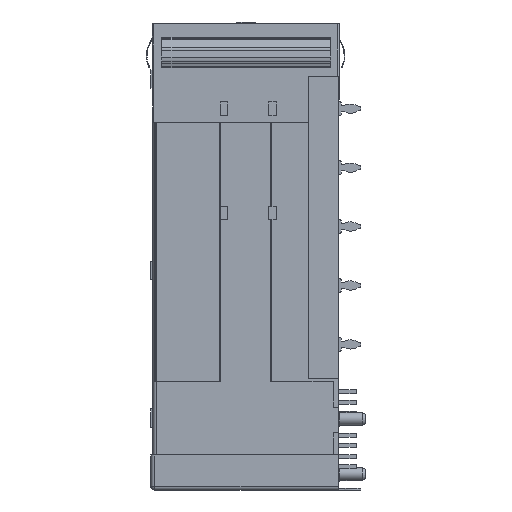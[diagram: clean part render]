
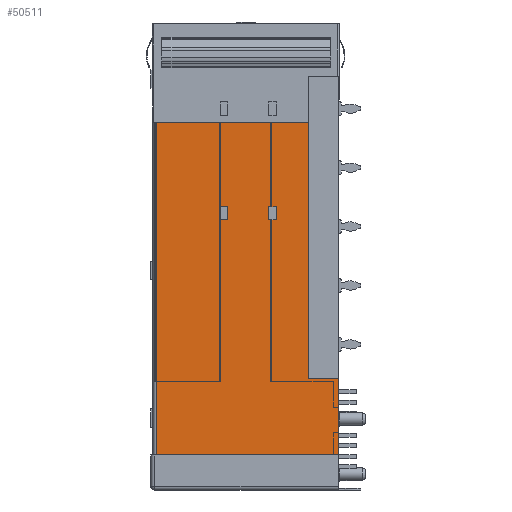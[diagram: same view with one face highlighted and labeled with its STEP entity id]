
A CAD part, left-side view. The second image highlights one B-rep face of the part: STEP entity #50511.
In plain terms, the highlighted planar face has unit normal (-1, 0, 0).
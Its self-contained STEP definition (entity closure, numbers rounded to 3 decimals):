
#53 = DIRECTION ( 'NONE',  ( 0., 0., -1. ) ) ;
#724 = CARTESIAN_POINT ( 'NONE',  ( -42.875, 8.45, -26.6 ) ) ;
#1638 = EDGE_LOOP ( 'NONE', ( #9303, #9169, #57726, #85161, #72223, #13407 ) ) ;
#1797 = CARTESIAN_POINT ( 'NONE',  ( -42.875, 9.45, -26.6 ) ) ;
#2670 = CARTESIAN_POINT ( 'NONE',  ( -42.875, 0., -63.25 ) ) ;
#2770 = AXIS2_PLACEMENT_3D ( 'NONE', #60844, #84009, #83327 ) ;
#2809 = VERTEX_POINT ( 'NONE', #16423 ) ;
#2815 = CARTESIAN_POINT ( 'NONE',  ( -42.875, 4.1, -13.4 ) ) ;
#3092 = CARTESIAN_POINT ( 'NONE',  ( -42.875, 0., -48.1 ) ) ;
#3178 = LINE ( 'NONE', #81009, #25787 ) ;
#3416 = VECTOR ( 'NONE', #10620, 1000. ) ;
#3581 = ORIENTED_EDGE ( 'NONE', *, *, #31545, .T. ) ;
#4260 = LINE ( 'NONE', #3092, #62073 ) ;
#5227 = CARTESIAN_POINT ( 'NONE',  ( -42.875, 9.45, -24.8 ) ) ;
#6854 = VECTOR ( 'NONE', #26841, 1000. ) ;
#9169 = ORIENTED_EDGE ( 'NONE', *, *, #50892, .T. ) ;
#9193 = EDGE_CURVE ( 'NONE', #64958, #66010, #88808, .T. ) ;
#9303 = ORIENTED_EDGE ( 'NONE', *, *, #10427, .F. ) ;
#9581 = EDGE_CURVE ( 'NONE', #89379, #97087, #67340, .T. ) ;
#9822 = VERTEX_POINT ( 'NONE', #67028 ) ;
#10427 = EDGE_CURVE ( 'NONE', #22195, #43388, #13076, .T. ) ;
#10620 = DIRECTION ( 'NONE',  ( 0., -1., 0. ) ) ;
#13076 = LINE ( 'NONE', #18110, #63371 ) ;
#13407 = ORIENTED_EDGE ( 'NONE', *, *, #46074, .T. ) ;
#16423 = CARTESIAN_POINT ( 'NONE',  ( -42.875, 24.7, -58.5 ) ) ;
#18110 = CARTESIAN_POINT ( 'NONE',  ( -42.875, 25.2, -13.4 ) ) ;
#18687 = ORIENTED_EDGE ( 'NONE', *, *, #100292, .T. ) ;
#22195 = VERTEX_POINT ( 'NONE', #68334 ) ;
#23080 = LINE ( 'NONE', #2670, #64592 ) ;
#23247 = DIRECTION ( 'NONE',  ( 0., 0., -1. ) ) ;
#25787 = VECTOR ( 'NONE', #97181, 1000. ) ;
#26841 = DIRECTION ( 'NONE',  ( 0., 1., 0. ) ) ;
#27658 = CARTESIAN_POINT ( 'NONE',  ( -42.875, 9.45, -24.8 ) ) ;
#28509 = CARTESIAN_POINT ( 'NONE',  ( -42.875, 9.45, -24.8 ) ) ;
#28863 = EDGE_CURVE ( 'NONE', #73923, #40266, #23080, .T. ) ;
#29274 = FACE_BOUND ( 'NONE', #81308, .T. ) ;
#31545 = EDGE_CURVE ( 'NONE', #88949, #89379, #66428, .T. ) ;
#32053 = CARTESIAN_POINT ( 'NONE',  ( -42.875, 0., -48.1 ) ) ;
#34363 = CARTESIAN_POINT ( 'NONE',  ( -42.875, 24.7, -63.25 ) ) ;
#39289 = VECTOR ( 'NONE', #83489, 1000. ) ;
#39378 = VECTOR ( 'NONE', #59466, 1000. ) ;
#39919 = VERTEX_POINT ( 'NONE', #83421 ) ;
#40266 = VERTEX_POINT ( 'NONE', #32053 ) ;
#42137 = CARTESIAN_POINT ( 'NONE',  ( -42.875, 4.1, -48.1 ) ) ;
#42204 = CARTESIAN_POINT ( 'NONE',  ( -42.875, 4.1, -7.1 ) ) ;
#43388 = VERTEX_POINT ( 'NONE', #2815 ) ;
#44066 = CARTESIAN_POINT ( 'NONE',  ( -42.875, 16., -26.6 ) ) ;
#44851 = ORIENTED_EDGE ( 'NONE', *, *, #79571, .T. ) ;
#46074 = EDGE_CURVE ( 'NONE', #68333, #43388, #71651, .T. ) ;
#46760 = ORIENTED_EDGE ( 'NONE', *, *, #95624, .T. ) ;
#49727 = VECTOR ( 'NONE', #53, 1000. ) ;
#49876 = CARTESIAN_POINT ( 'NONE',  ( -42.875, 25.2, -58.5 ) ) ;
#50500 = EDGE_CURVE ( 'NONE', #88709, #88949, #83309, .T. ) ;
#50511 = ADVANCED_FACE ( 'NONE', ( #61959, #29274, #63253 ), #75927, .T. ) ;
#50892 = EDGE_CURVE ( 'NONE', #22195, #2809, #65660, .T. ) ;
#51310 = ORIENTED_EDGE ( 'NONE', *, *, #50500, .T. ) ;
#51477 = DIRECTION ( 'NONE',  ( 0., -1., 0. ) ) ;
#51589 = DIRECTION ( 'NONE',  ( 0., -1., 0. ) ) ;
#52385 = VECTOR ( 'NONE', #79165, 1000. ) ;
#53979 = EDGE_CURVE ( 'NONE', #40266, #68333, #4260, .T. ) ;
#57726 = ORIENTED_EDGE ( 'NONE', *, *, #65529, .T. ) ;
#59466 = DIRECTION ( 'NONE',  ( 0., 0., 1. ) ) ;
#60844 = CARTESIAN_POINT ( 'NONE',  ( -42.875, 0., -63.25 ) ) ;
#61959 = FACE_BOUND ( 'NONE', #76582, .T. ) ;
#62073 = VECTOR ( 'NONE', #67974, 1000. ) ;
#63253 = FACE_OUTER_BOUND ( 'NONE', #1638, .T. ) ;
#63371 = VECTOR ( 'NONE', #51477, 1000. ) ;
#63595 = CARTESIAN_POINT ( 'NONE',  ( -42.875, 0., -58.5 ) ) ;
#64592 = VECTOR ( 'NONE', #66182, 1000. ) ;
#64958 = VERTEX_POINT ( 'NONE', #79811 ) ;
#65529 = EDGE_CURVE ( 'NONE', #2809, #73923, #98337, .T. ) ;
#65660 = LINE ( 'NONE', #34363, #39289 ) ;
#65871 = CARTESIAN_POINT ( 'NONE',  ( -42.875, 8.45, -24.8 ) ) ;
#65880 = CARTESIAN_POINT ( 'NONE',  ( -42.875, 15., -24.8 ) ) ;
#66010 = VERTEX_POINT ( 'NONE', #65880 ) ;
#66182 = DIRECTION ( 'NONE',  ( 0., 0., 1. ) ) ;
#66428 = LINE ( 'NONE', #27658, #72642 ) ;
#66755 = DIRECTION ( 'NONE',  ( 0., 0., 1. ) ) ;
#67028 = CARTESIAN_POINT ( 'NONE',  ( -42.875, 16., -26.6 ) ) ;
#67340 = LINE ( 'NONE', #72995, #49727 ) ;
#67893 = ORIENTED_EDGE ( 'NONE', *, *, #9581, .T. ) ;
#67974 = DIRECTION ( 'NONE',  ( 0., 1., 0. ) ) ;
#68333 = VERTEX_POINT ( 'NONE', #42137 ) ;
#68334 = CARTESIAN_POINT ( 'NONE',  ( -42.875, 24.7, -13.4 ) ) ;
#71651 = LINE ( 'NONE', #42204, #75396 ) ;
#72018 = CARTESIAN_POINT ( 'NONE',  ( -42.875, 15., -24.8 ) ) ;
#72223 = ORIENTED_EDGE ( 'NONE', *, *, #53979, .T. ) ;
#72642 = VECTOR ( 'NONE', #51589, 1000. ) ;
#72995 = CARTESIAN_POINT ( 'NONE',  ( -42.875, 8.45, -24.8 ) ) ;
#73703 = LINE ( 'NONE', #95030, #52385 ) ;
#73923 = VERTEX_POINT ( 'NONE', #63595 ) ;
#75396 = VECTOR ( 'NONE', #66755, 1000. ) ;
#75922 = ORIENTED_EDGE ( 'NONE', *, *, #82849, .T. ) ;
#75927 = PLANE ( 'NONE',  #2770 ) ;
#76582 = EDGE_LOOP ( 'NONE', ( #3581, #67893, #18687, #51310 ) ) ;
#79165 = DIRECTION ( 'NONE',  ( 0., 1., 0. ) ) ;
#79571 = EDGE_CURVE ( 'NONE', #66010, #39919, #82156, .T. ) ;
#79811 = CARTESIAN_POINT ( 'NONE',  ( -42.875, 16., -24.8 ) ) ;
#81009 = CARTESIAN_POINT ( 'NONE',  ( -42.875, 16., -24.8 ) ) ;
#81308 = EDGE_LOOP ( 'NONE', ( #95166, #44851, #46760, #75922 ) ) ;
#82145 = DIRECTION ( 'NONE',  ( 0., -1., 0. ) ) ;
#82156 = LINE ( 'NONE', #72018, #84685 ) ;
#82849 = EDGE_CURVE ( 'NONE', #9822, #64958, #3178, .T. ) ;
#83309 = LINE ( 'NONE', #28509, #39378 ) ;
#83327 = DIRECTION ( 'NONE',  ( 0., 0., 1. ) ) ;
#83421 = CARTESIAN_POINT ( 'NONE',  ( -42.875, 15., -26.6 ) ) ;
#83489 = DIRECTION ( 'NONE',  ( 0., 0., -1. ) ) ;
#83510 = LINE ( 'NONE', #44066, #6854 ) ;
#84009 = DIRECTION ( 'NONE',  ( -1., 0., 0. ) ) ;
#84685 = VECTOR ( 'NONE', #23247, 1000. ) ;
#85161 = ORIENTED_EDGE ( 'NONE', *, *, #28863, .T. ) ;
#88709 = VERTEX_POINT ( 'NONE', #1797 ) ;
#88808 = LINE ( 'NONE', #91760, #3416 ) ;
#88949 = VERTEX_POINT ( 'NONE', #5227 ) ;
#89379 = VERTEX_POINT ( 'NONE', #65871 ) ;
#91760 = CARTESIAN_POINT ( 'NONE',  ( -42.875, 16., -24.8 ) ) ;
#94527 = VECTOR ( 'NONE', #82145, 1000. ) ;
#95030 = CARTESIAN_POINT ( 'NONE',  ( -42.875, 9.45, -26.6 ) ) ;
#95166 = ORIENTED_EDGE ( 'NONE', *, *, #9193, .T. ) ;
#95624 = EDGE_CURVE ( 'NONE', #39919, #9822, #83510, .T. ) ;
#97087 = VERTEX_POINT ( 'NONE', #724 ) ;
#97181 = DIRECTION ( 'NONE',  ( 0., 0., 1. ) ) ;
#98337 = LINE ( 'NONE', #49876, #94527 ) ;
#100292 = EDGE_CURVE ( 'NONE', #97087, #88709, #73703, .T. ) ;
